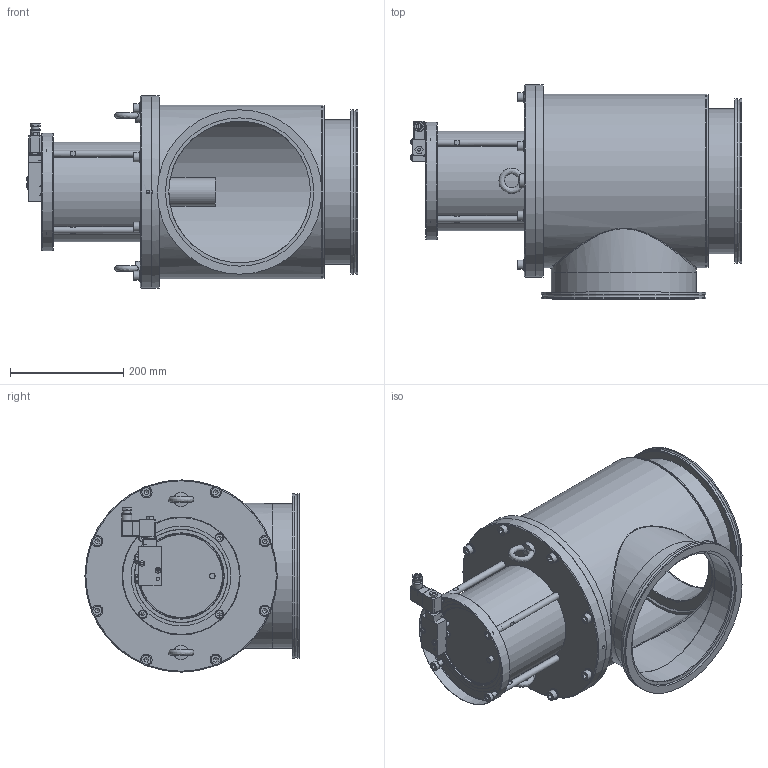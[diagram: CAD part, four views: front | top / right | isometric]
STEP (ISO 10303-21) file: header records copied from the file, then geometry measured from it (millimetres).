
FILE_DESCRIPTION(/* description */ (''),/* implementation_level */ '2;1');
FILE_NAME(/* name */ '1113005839_203.stp',/* time_stamp */ '2019-04-08T07:27:57+02:00',/* author */ (''),/* organization */ (''),/* preprocessor_version */ 'ST-DEVELOPER v16',/* originating_system */ 'SIEMENS PLM Software NX 11.0',/* authorisation */ '');
FILE_SCHEMA (('AP203_CONFIGURATION_CONTROLLED_3D_DESIGN_OF_MECHANICAL_PARTS_AND_ASSEMBLIES_MIM_LF { 1 0 10303 403 2 1 2}'));
Length unit declared in the file: millimetre
Products named in the file (27): 467863; 467864; n-6024-562; N-7501-502_1; N-7501-502_2; 499057; 499005; 499031; 499053; 499064; 499042; 366217; N-7100-016_4; 377229; 439333; 439305; 714822; n-6131-415.1; 395410; n-6033-005.1; 224833.1; N-8501-300_MODELNX-ARRAGMNTArrangement 1; N-7501-502_NX-ARRAGMNT0Â°; 582377_MODELNX-ARRAGMNT0_Grad; 498998; 498993_MODEL; 791499
Assembly tree (51 placements, depth 4):
  791499
    224833.1  x4
    n-6033-005.1  x2
    395410  x8
    n-6131-415.1  x8
    498993_MODEL
      498998
        499042
        499064
        499053
        499031  x2
        499005
        499057
    714822
    439305
    439333
    377229  x4
    582377_MODELNX-ARRAGMNT0_Grad
      N-7100-016_4  x2
      N-7501-502_NX-ARRAGMNT0Â°
        N-7501-502_2
        N-7501-502_1
        n-6024-562  x2
      366217  x2
      N-8501-300_MODELNX-ARRAGMNTArrangement 1
        467864
        467863
Bounding box: 584.04 x 377.5 x 339 mm (x, y, z)
Volume: 5510863.7 mm3; surface area: 1551807.5 mm2
Topology: 70 solids, 70 shells, 1034 faces, 2253 edges, 1458 vertices
Faces by surface type: plane 590, cylinder 266, cone 82, torus 44, extrusion 32, bspline 10, sphere 10
Full cylindrical faces by diameter (mm): 2.7 x1, 3 x1, 4 x2, 4.2 x2, 4.4 x2, 4.9 x1, 5 x2, 5.5 x3, 6 x3, 6.5 x2, 6.66 x4, 6.7 x4, 6.8 x4, 7.7 x4, 7.78 x1, 8 x8, 8.36 x8, 8.4 x8, 8.5 x14, 8.566 x2, 9 x5, 9.728 x5, 10 x25, 10.15 x5, 10.3 x1, 10.5 x8, 11 x8, 12 x4, 13 x4, 13.85 x2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
Entity records: 26234 total; most frequent: CARTESIAN_POINT 6737, DIRECTION 2941, ORIENTED_EDGE 2700, EDGE_CURVE 1350, AXIS2_PLACEMENT_3D 1190, EDGE_LOOP 1073, VERTEX_POINT 994, ADVANCED_FACE 698
